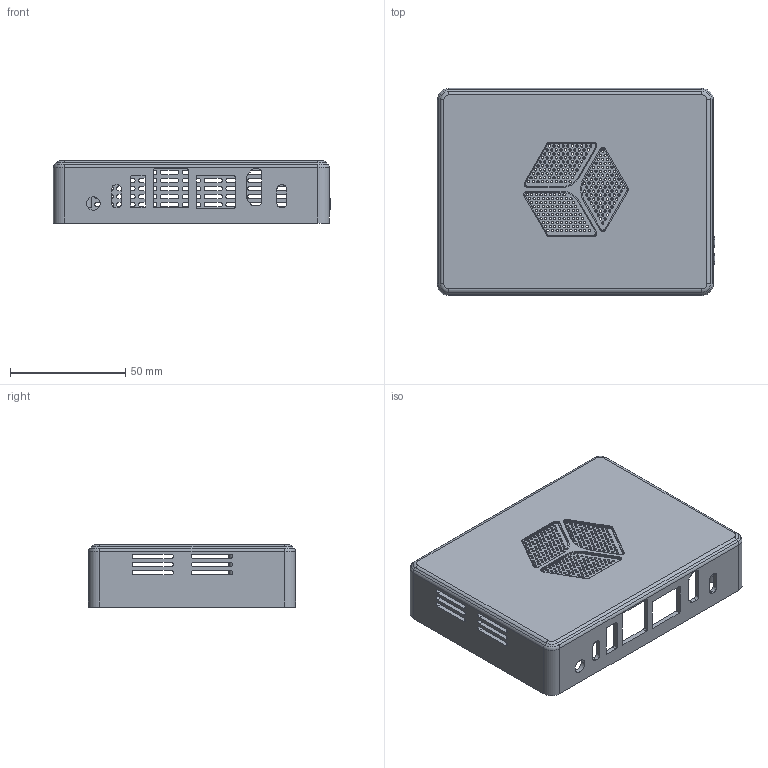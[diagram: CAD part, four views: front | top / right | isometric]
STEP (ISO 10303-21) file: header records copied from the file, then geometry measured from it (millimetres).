
FILE_DESCRIPTION((''),'2;1');
FILE_NAME('00_TOP_COVER_ASS_ASM','2024-10-17T17:58:35',('ts'),(''),'CREO PARAMETRIC BY PTC INC, 2020154','CREO PARAMETRIC BY PTC INC, 2020154','');
FILE_SCHEMA(('AUTOMOTIVE_DESIGN { 1 0 10303 214 1 1 1 1 }'));
Products named in the file (4): 0_TOP_COVER; 0_KEY_A; M2_5X3_0; 00_TOP_COVER_ASS_ASM
Assembly tree (10 placements, depth 2):
  00_TOP_COVER_ASS_ASM
    0_TOP_COVER
    0_KEY_A
    M2_5X3_0  x8
Bounding box: 120.5 x 90 x 27 mm (x, y, z)
Volume: 44803.3 mm3; surface area: 46280.8 mm2
Topology: 10 solids, 10 shells, 3117 faces, 10485 edges, 7746 vertices
Faces by surface type: plane 2203, cylinder 884, extrusion 14, torus 12, cone 4
Entity records: 62613 total; most frequent: CARTESIAN_POINT 9915, DIRECTION 9816, ORIENTED_EDGE 8092, EDGE_CURVE 4046, VECTOR 3586, LINE 3572, AXIS2_PLACEMENT_3D 3115, VERTEX_POINT 2688
